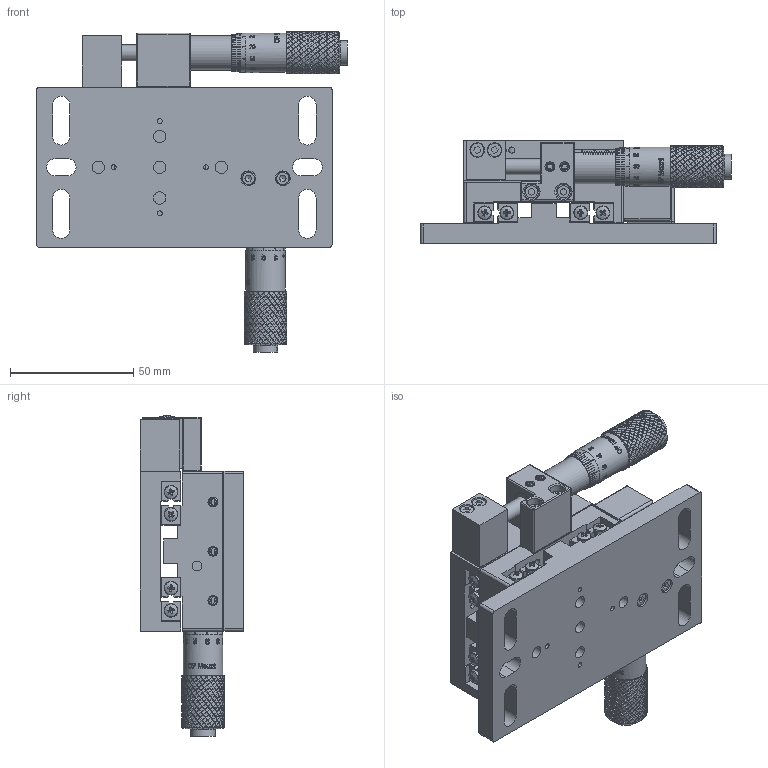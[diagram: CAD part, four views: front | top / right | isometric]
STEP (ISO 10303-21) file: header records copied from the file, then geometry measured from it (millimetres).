
FILE_DESCRIPTION (( 'STEP AP203' ), '1' );
FILE_NAME ('TSS65XY-1.step', '2017-01-10T09:22:15', ( '¦K¬P' ), ( '' ), 'SwSTEP 2.0', 'SolidWorks 2012', '' );
FILE_SCHEMA (( 'CONFIG_CONTROL_DESIGN' ));
Products named in the file (1): TSS65XY-1
Bounding box: 126.2 x 42 x 130.3 mm (x, y, z)
Surface area: 81042.3 mm2 (no closed solid volume)
Topology: 0 solids, 148 shells, 3754 faces, 14213 edges, 10207 vertices
Faces by surface type: bspline 1869, cylinder 1265, plane 535, cone 39, sphere 30, torus 16
Full cylindrical faces by diameter (mm): 1.4 x2, 2 x8, 2.5 x7, 3 x6, 3.3 x5, 4 x8, 5 x18, 5.4 x2, 5.6 x16, 6 x8, 6.5 x2, 8 x2, 10 x4, 14.8 x2, 16 x2
Entity records: 358341 total; most frequent: CARTESIAN_POINT 272075, ORIENTED_EDGE 23681, EDGE_CURVE 14049, VERTEX_POINT 10183, DIRECTION 9072, B_SPLINE_CURVE_WITH_KNOTS 5242, EDGE_LOOP 4297, FACE_OUTER_BOUND 3878
